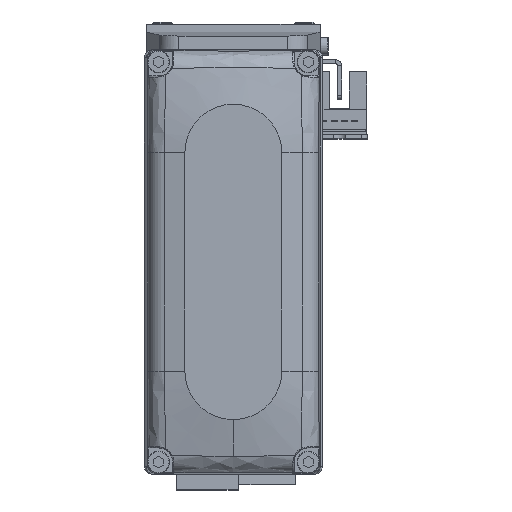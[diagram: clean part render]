
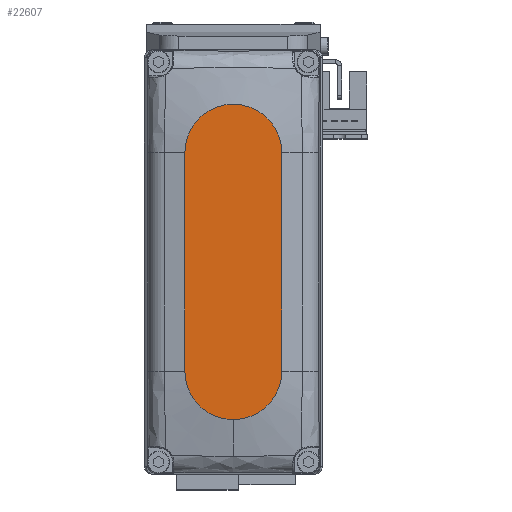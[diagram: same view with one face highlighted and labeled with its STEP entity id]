
A CAD part, top view. The second image highlights one B-rep face of the part: STEP entity #22607.
In plain terms, the highlighted planar face has unit normal (0, 0, 1).
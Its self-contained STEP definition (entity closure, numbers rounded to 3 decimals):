
#965 = DIRECTION ( 'NONE',  ( 0., 0., 1. ) ) ;
#2654 = DIRECTION ( 'NONE',  ( 1., 0., 0. ) ) ;
#2686 = VERTEX_POINT ( 'NONE', #15950 ) ;
#4587 = VERTEX_POINT ( 'NONE', #38314 ) ;
#4939 = VERTEX_POINT ( 'NONE', #34496 ) ;
#5631 = PLANE ( 'NONE',  #27768 ) ;
#5920 = AXIS2_PLACEMENT_3D ( 'NONE', #25115, #37228, #10023 ) ;
#9393 = LINE ( 'NONE', #21515, #13316 ) ;
#10023 = DIRECTION ( 'NONE',  ( 1., 0., 0. ) ) ;
#10368 = DIRECTION ( 'NONE',  ( 1., 0., 0. ) ) ;
#11510 = AXIS2_PLACEMENT_3D ( 'NONE', #13336, #25440, #37547 ) ;
#13109 = DIRECTION ( 'NONE',  ( 1., 0., 0. ) ) ;
#13316 = VECTOR ( 'NONE', #33601, 1000. ) ;
#13336 = CARTESIAN_POINT ( 'NONE',  ( -27., 0., 25. ) ) ;
#13353 = ORIENTED_EDGE ( 'NONE', *, *, #37208, .T. ) ;
#14574 = VERTEX_POINT ( 'NONE', #32801 ) ;
#14827 = ORIENTED_EDGE ( 'NONE', *, *, #38369, .T. ) ;
#15950 = CARTESIAN_POINT ( 'NONE',  ( 27., -12., 25. ) ) ;
#17166 = AXIS2_PLACEMENT_3D ( 'NONE', #28181, #965, #13109 ) ;
#17767 = CARTESIAN_POINT ( 'NONE',  ( 0., 0., 25. ) ) ;
#19462 = ORIENTED_EDGE ( 'NONE', *, *, #26004, .T. ) ;
#19759 = ORIENTED_EDGE ( 'NONE', *, *, #20257, .T. ) ;
#20257 = EDGE_CURVE ( 'NONE', #32228, #4939, #9393, .T. ) ;
#20422 = VECTOR ( 'NONE', #10368, 1000. ) ;
#21515 = CARTESIAN_POINT ( 'NONE',  ( -27., 12., 25. ) ) ;
#22607 = ADVANCED_FACE ( 'NONE', ( #32828 ), #5631, .T. ) ;
#22610 = EDGE_LOOP ( 'NONE', ( #19759, #19462, #13353, #14827, #38337 ) ) ;
#23065 = CIRCLE ( 'NONE', #5920, 12. ) ;
#25115 = CARTESIAN_POINT ( 'NONE',  ( 27., 0., 25. ) ) ;
#25440 = DIRECTION ( 'NONE',  ( 0., 0., 1. ) ) ;
#25451 = LINE ( 'NONE', #37558, #20422 ) ;
#26004 = EDGE_CURVE ( 'NONE', #4939, #4587, #28626, .T. ) ;
#27768 = AXIS2_PLACEMENT_3D ( 'NONE', #17767, #29858, #2654 ) ;
#28181 = CARTESIAN_POINT ( 'NONE',  ( 27., 0., 25. ) ) ;
#28626 = CIRCLE ( 'NONE', #11510, 12. ) ;
#29858 = DIRECTION ( 'NONE',  ( 0., 0., 1. ) ) ;
#32010 = CARTESIAN_POINT ( 'NONE',  ( 27., 12., 25. ) ) ;
#32228 = VERTEX_POINT ( 'NONE', #32010 ) ;
#32801 = CARTESIAN_POINT ( 'NONE',  ( 39., 0., 25. ) ) ;
#32828 = FACE_OUTER_BOUND ( 'NONE', #22610, .T. ) ;
#33601 = DIRECTION ( 'NONE',  ( -1., 0., 0. ) ) ;
#34179 = EDGE_CURVE ( 'NONE', #14574, #32228, #34261, .T. ) ;
#34261 = CIRCLE ( 'NONE', #17166, 12. ) ;
#34496 = CARTESIAN_POINT ( 'NONE',  ( -27., 12., 25. ) ) ;
#37208 = EDGE_CURVE ( 'NONE', #4587, #2686, #25451, .T. ) ;
#37228 = DIRECTION ( 'NONE',  ( 0., 0., 1. ) ) ;
#37547 = DIRECTION ( 'NONE',  ( 1., 0., 0. ) ) ;
#37558 = CARTESIAN_POINT ( 'NONE',  ( -27., -12., 25. ) ) ;
#38314 = CARTESIAN_POINT ( 'NONE',  ( -27., -12., 25. ) ) ;
#38337 = ORIENTED_EDGE ( 'NONE', *, *, #34179, .T. ) ;
#38369 = EDGE_CURVE ( 'NONE', #2686, #14574, #23065, .T. ) ;
